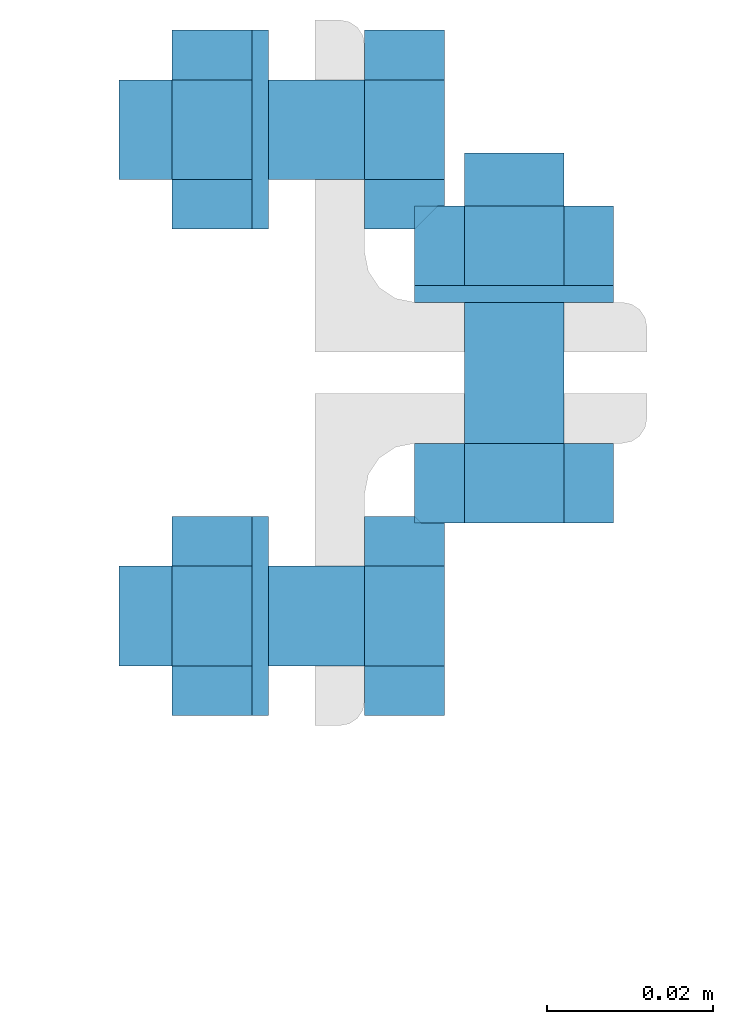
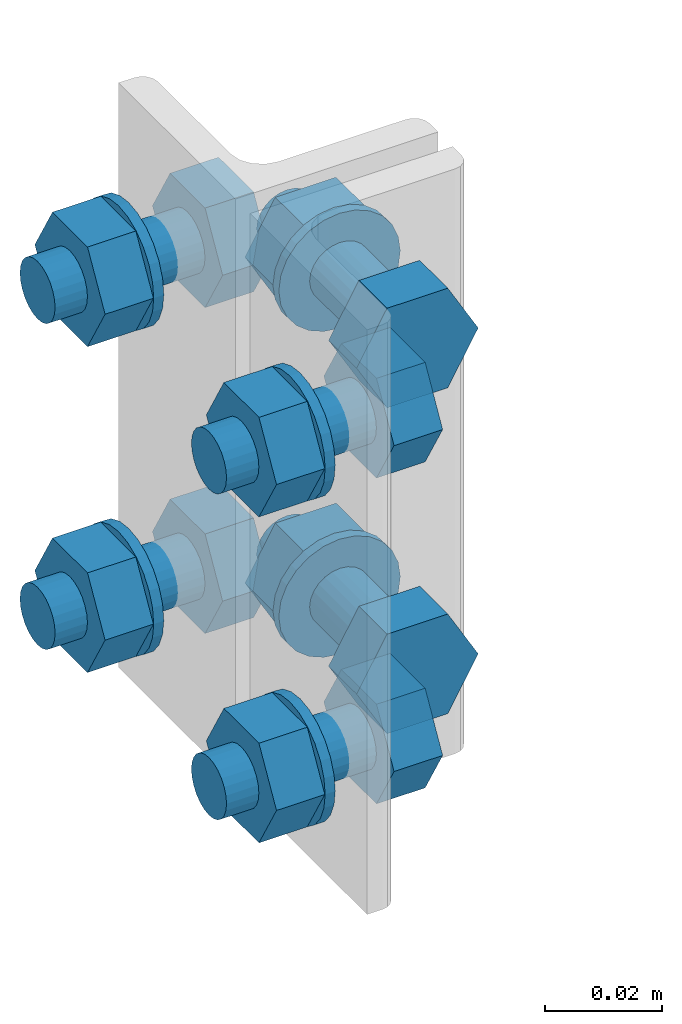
# One storey, part 19 of 20: 32 mechanical fasteners.
"""IFC4 building model written with IfcOpenShell, lengths in metres."""

from ifc_helpers import new_model, si_unit, frame, origin_with_axes, place, context, project, spatial, polyline, outline, extrude, type_object, element, save


model = new_model("IFC4")

# Units and contexts
model_context = context("Model", 3, precision=1e-05, world=origin_with_axes())
ifc_project = project(units=[si_unit("LENGTHUNIT", "METRE"), si_unit("AREAUNIT", "SQUARE_METRE"), si_unit("VOLUMEUNIT", "CUBIC_METRE"), si_unit("MASSUNIT", "GRAM", prefix="KILO"), si_unit("TIMEUNIT", "SECOND"), si_unit("PLANEANGLEUNIT", "RADIAN"), si_unit("SOLIDANGLEUNIT", "STERADIAN"), si_unit("THERMODYNAMICTEMPERATUREUNIT", "DEGREE_CELSIUS")], contexts=[model_context])

# Site, building, storey
placement_1 = place(None, origin_with_axes())
site = spatial("IfcSite", under=ifc_project, at=placement_1, Name="Italia", CompositionType="ELEMENT")
building = spatial("IfcBuilding", under=site, at=placement_1, Name="Tettoia", CompositionType="ELEMENT")
storey = spatial("IfcBuildingStorey", under=building, at=placement_1, Name="Storey 0", CompositionType="ELEMENT", Elevation=0.0)

# Mechanical fasteners
mechanical_fastener_type_1 = type_object("IfcMechanicalFastenerType", Name="Collegamento 0124_0125", PredefinedType="BOLT")
placement_2 = place(placement_1, origin_with_axes())
mechanical_fastener_1_placement = place(placement_2, origin_with_axes())
element("IfcMechanicalFastener", 1, at=mechanical_fastener_1_placement, inside=storey, type_object=mechanical_fastener_type_1, Name="Collegamento 0124_0125", NominalDiameter=0.0119999, context=model_context, shape_type="SweptSolid", body=[
    extrude(outline(polyline([(0.0, 0.0), (-0.012, 0.0), (-0.018, 0.0103922), (-0.012, 0.0207844), (0.0, 0.0207844), (0.006, 0.0103922), (0.0, 0.0)])), frame((0.1328, 21.0115, 4.25561), z_axis=(0.0, -1.0, 0.0), x_axis=(1.0, 0.0, 0.0)), (0.0, 0.0, 1.0), 0.00960159),
])
mechanical_fastener_type_2 = type_object("IfcMechanicalFastenerType", Name="Collegamento 0124_0125", PredefinedType="BOLT")
mechanical_fastener_2_placement = place(placement_2, origin_with_axes())
element("IfcMechanicalFastener", 2, at=mechanical_fastener_2_placement, inside=storey, type_object=mechanical_fastener_type_2, Name="Collegamento 0124_0125", NominalDiameter=0.012, context=model_context, shape_type="SweptSolid", body=[
    extrude(outline(polyline([(0.0, 0.0), (-0.000204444, -0.00155306), (-0.000803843, -0.00299978), (-0.00175735, -0.00424242), (-0.00299999, -0.00519609), (-0.00444709, -0.00579548), (-0.006, -0.00600004), (-0.00755291, -0.00579548), (-0.009, -0.00519609), (-0.0102426, -0.00424242), (-0.0111962, -0.00299978), (-0.0117956, -0.00155306), (-0.012, 0.0), (-0.0117956, 0.00155306), (-0.0111962, 0.00299978), (-0.0102426, 0.00424242), (-0.009, 0.00519609), (-0.00755291, 0.00579548), (-0.006, 0.00600004), (-0.00444709, 0.00579548), (-0.00299999, 0.00519609), (-0.00175735, 0.00424242), (-0.000803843, 0.00299978), (-0.000204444, 0.00155306), (0.0, 0.0)])), frame((0.1328, 21.0465, 4.266), z_axis=(0.0, -1.0, 0.0), x_axis=(1.0, 0.0, 0.0)), (0.0, 0.0, 1.0), 0.0349998),
])
mechanical_fastener_type_3 = type_object("IfcMechanicalFastenerType", Name="Collegamento 0124_0125", PredefinedType="BOLT")
mechanical_fastener_3_placement = place(placement_2, origin_with_axes())
element("IfcMechanicalFastener", 3, at=mechanical_fastener_3_placement, inside=storey, type_object=mechanical_fastener_type_3, Name="Collegamento 0124_0125", NominalDiameter=0.0119999, context=model_context, shape_type="SweptSolid", body=[
    extrude(outline(polyline([(0.0, 0.0), (-0.012, 0.0), (-0.018, 0.0103922), (-0.012, 0.0207844), (0.0, 0.0207844), (0.006, 0.0103922), (0.0, 0.0)])), frame((0.1328, 21.0401, 4.25561), z_axis=(0.0, -1.0, 0.0), x_axis=(1.0, 0.0, 0.0)), (0.0, 0.0, 1.0), 0.00959969),
])
mechanical_fastener_type_4 = type_object("IfcMechanicalFastenerType", Name="Collegamento 0124_0125", PredefinedType="BOLT")
mechanical_fastener_4_placement = place(placement_2, origin_with_axes())
element("IfcMechanicalFastener", 4, at=mechanical_fastener_4_placement, inside=storey, type_object=mechanical_fastener_type_4, Name="Collegamento 0124_0125", NominalDiameter=0.024, context=model_context, shape_type="SweptSolid", body=[
    extrude(outline(polyline([(0.0, 0.0), (-0.000408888, -0.00310564), (-0.00160769, -0.00600004), (-0.00351471, -0.00848532), (-0.006, -0.0103922), (-0.00889416, -0.011591), (-0.012, -0.0120001), (-0.0151058, -0.011591), (-0.018, -0.0103922), (-0.0204853, -0.00848532), (-0.0223923, -0.00600004), (-0.0235911, -0.00310564), (-0.024, 0.0), (-0.0235911, 0.00310564), (-0.0223923, 0.00600004), (-0.0204853, 0.00848532), (-0.018, 0.0103922), (-0.0151058, 0.011591), (-0.012, 0.0120001), (-0.00889416, 0.011591), (-0.006, 0.0103922), (-0.00351471, 0.00848532), (-0.00160769, 0.00600004), (-0.000408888, 0.00310564), (0.0, 0.0)])), frame((0.1388, 21.0305, 4.266), z_axis=(0.0, -1.0, 0.0), x_axis=(1.0, 0.0, 0.0)), (0.0, 0.0, 1.0), 0.00200081),
])
mechanical_fastener_type_5 = type_object("IfcMechanicalFastenerType", Name="Collegamento 0124_0125", PredefinedType="BOLT")
mechanical_fastener_5_placement = place(placement_2, origin_with_axes())
element("IfcMechanicalFastener", 5, at=mechanical_fastener_5_placement, inside=storey, type_object=mechanical_fastener_type_5, Name="Collegamento 0124_0125", NominalDiameter=0.0119999, context=model_context, shape_type="SweptSolid", body=[
    extrude(outline(polyline([(0.0, 0.0), (-0.012, 0.0), (-0.018, 0.0103922), (-0.012, 0.0207844), (0.0, 0.0207844), (0.006, 0.0103922), (0.0, 0.0)])), frame((0.1328, 21.0115, 4.32361), z_axis=(0.0, -1.0, 0.0), x_axis=(1.0, 0.0, 0.0)), (0.0, 0.0, 1.0), 0.00960159),
])
mechanical_fastener_type_6 = type_object("IfcMechanicalFastenerType", Name="Collegamento 0124_0125", PredefinedType="BOLT")
mechanical_fastener_6_placement = place(placement_2, origin_with_axes())
element("IfcMechanicalFastener", 6, at=mechanical_fastener_6_placement, inside=storey, type_object=mechanical_fastener_type_6, Name="Collegamento 0124_0125", NominalDiameter=0.012, context=model_context, shape_type="SweptSolid", body=[
    extrude(outline(polyline([(0.0, 0.0), (-0.000204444, -0.00155306), (-0.000803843, -0.00299978), (-0.00175735, -0.00424242), (-0.00299999, -0.00519609), (-0.00444709, -0.00579548), (-0.006, -0.00600004), (-0.00755291, -0.00579548), (-0.009, -0.00519609), (-0.0102426, -0.00424242), (-0.0111962, -0.00299978), (-0.0117956, -0.00155306), (-0.012, 0.0), (-0.0117956, 0.00155306), (-0.0111962, 0.00299978), (-0.0102426, 0.00424242), (-0.009, 0.00519609), (-0.00755291, 0.00579548), (-0.006, 0.00600004), (-0.00444709, 0.00579548), (-0.00299999, 0.00519609), (-0.00175735, 0.00424242), (-0.000803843, 0.00299978), (-0.000204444, 0.00155306), (0.0, 0.0)])), frame((0.1328, 21.0465, 4.334), z_axis=(0.0, -1.0, 0.0), x_axis=(1.0, 0.0, 0.0)), (0.0, 0.0, 1.0), 0.0349998),
])
mechanical_fastener_type_7 = type_object("IfcMechanicalFastenerType", Name="Collegamento 0124_0125", PredefinedType="BOLT")
mechanical_fastener_7_placement = place(placement_2, origin_with_axes())
element("IfcMechanicalFastener", 7, at=mechanical_fastener_7_placement, inside=storey, type_object=mechanical_fastener_type_7, Name="Collegamento 0124_0125", NominalDiameter=0.0119999, context=model_context, shape_type="SweptSolid", body=[
    extrude(outline(polyline([(0.0, 0.0), (-0.012, 0.0), (-0.018, 0.0103922), (-0.012, 0.0207844), (0.0, 0.0207844), (0.006, 0.0103922), (0.0, 0.0)])), frame((0.1328, 21.0401, 4.32361), z_axis=(0.0, -1.0, 0.0), x_axis=(1.0, 0.0, 0.0)), (0.0, 0.0, 1.0), 0.00959969),
])
mechanical_fastener_type_8 = type_object("IfcMechanicalFastenerType", Name="Collegamento 0124_0125", PredefinedType="BOLT")
mechanical_fastener_8_placement = place(placement_2, origin_with_axes())
element("IfcMechanicalFastener", 8, at=mechanical_fastener_8_placement, inside=storey, type_object=mechanical_fastener_type_8, Name="Collegamento 0124_0125", NominalDiameter=0.024, context=model_context, shape_type="SweptSolid", body=[
    extrude(outline(polyline([(0.0, 0.0), (-0.000408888, -0.00310564), (-0.00160769, -0.00600004), (-0.00351471, -0.00848532), (-0.006, -0.0103922), (-0.00889416, -0.011591), (-0.012, -0.0120001), (-0.0151058, -0.011591), (-0.018, -0.0103922), (-0.0204853, -0.00848532), (-0.0223923, -0.00600004), (-0.0235911, -0.00310564), (-0.024, 0.0), (-0.0235911, 0.00310564), (-0.0223923, 0.00600004), (-0.0204853, 0.00848532), (-0.018, 0.0103922), (-0.0151058, 0.011591), (-0.012, 0.0120001), (-0.00889416, 0.011591), (-0.006, 0.0103922), (-0.00351471, 0.00848532), (-0.00160769, 0.00600004), (-0.000408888, 0.00310564), (0.0, 0.0)])), frame((0.1388, 21.0305, 4.334), z_axis=(0.0, -1.0, 0.0), x_axis=(1.0, 0.0, 0.0)), (0.0, 0.0, 1.0), 0.00200081),
])
mechanical_fastener_type_9 = type_object("IfcMechanicalFastenerType", Name="Collegamento 0124_0125", PredefinedType="BOLT")
mechanical_fastener_9_placement = place(placement_2, origin_with_axes())
element("IfcMechanicalFastener", 9, at=mechanical_fastener_9_placement, inside=storey, type_object=mechanical_fastener_type_9, Name="Collegamento 0124_0125", NominalDiameter=0.0119999, context=model_context, shape_type="SweptSolid", body=[
    extrude(outline(polyline([(0.0, 0.0), (-0.012, 0.0), (-0.018, 0.0103922), (-0.012, 0.0207844), (0.0, 0.0207844), (0.006, 0.0103922), (0.0, 0.0)])), frame((0.1328, 21.0115, 4.25561), z_axis=(0.0, -1.0, 0.0), x_axis=(1.0, 0.0, 0.0)), (0.0, 0.0, 1.0), 0.00960159),
])
mechanical_fastener_type_10 = type_object("IfcMechanicalFastenerType", Name="Collegamento 0124_0125", PredefinedType="BOLT")
mechanical_fastener_10_placement = place(placement_2, origin_with_axes())
element("IfcMechanicalFastener", 10, at=mechanical_fastener_10_placement, inside=storey, type_object=mechanical_fastener_type_10, Name="Collegamento 0124_0125", NominalDiameter=0.012, context=model_context, shape_type="SweptSolid", body=[
    extrude(outline(polyline([(0.0, 0.0), (-0.000204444, -0.00155306), (-0.000803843, -0.00299978), (-0.00175735, -0.00424242), (-0.00299999, -0.00519609), (-0.00444709, -0.00579548), (-0.006, -0.00600004), (-0.00755291, -0.00579548), (-0.009, -0.00519609), (-0.0102426, -0.00424242), (-0.0111962, -0.00299978), (-0.0117956, -0.00155306), (-0.012, 0.0), (-0.0117956, 0.00155306), (-0.0111962, 0.00299978), (-0.0102426, 0.00424242), (-0.009, 0.00519609), (-0.00755291, 0.00579548), (-0.006, 0.00600004), (-0.00444709, 0.00579548), (-0.00299999, 0.00519609), (-0.00175735, 0.00424242), (-0.000803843, 0.00299978), (-0.000204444, 0.00155306), (0.0, 0.0)])), frame((0.1328, 21.0465, 4.266), z_axis=(0.0, -1.0, 0.0), x_axis=(1.0, 0.0, 0.0)), (0.0, 0.0, 1.0), 0.0349998),
])
mechanical_fastener_type_11 = type_object("IfcMechanicalFastenerType", Name="Collegamento 0124_0125", PredefinedType="BOLT")
mechanical_fastener_11_placement = place(placement_2, origin_with_axes())
element("IfcMechanicalFastener", 11, at=mechanical_fastener_11_placement, inside=storey, type_object=mechanical_fastener_type_11, Name="Collegamento 0124_0125", NominalDiameter=0.0119999, context=model_context, shape_type="SweptSolid", body=[
    extrude(outline(polyline([(0.0, 0.0), (-0.012, 0.0), (-0.018, 0.0103922), (-0.012, 0.0207844), (0.0, 0.0207844), (0.006, 0.0103922), (0.0, 0.0)])), frame((0.1328, 21.0401, 4.25561), z_axis=(0.0, -1.0, 0.0), x_axis=(1.0, 0.0, 0.0)), (0.0, 0.0, 1.0), 0.00959969),
])
mechanical_fastener_type_12 = type_object("IfcMechanicalFastenerType", Name="Collegamento 0124_0125", PredefinedType="BOLT")
mechanical_fastener_12_placement = place(placement_2, origin_with_axes())
element("IfcMechanicalFastener", 12, at=mechanical_fastener_12_placement, inside=storey, type_object=mechanical_fastener_type_12, Name="Collegamento 0124_0125", NominalDiameter=0.024, context=model_context, shape_type="SweptSolid", body=[
    extrude(outline(polyline([(0.0, 0.0), (-0.000408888, -0.00310564), (-0.00160769, -0.00600004), (-0.00351471, -0.00848532), (-0.006, -0.0103922), (-0.00889416, -0.011591), (-0.012, -0.0120001), (-0.0151058, -0.011591), (-0.018, -0.0103922), (-0.0204853, -0.00848532), (-0.0223923, -0.00600004), (-0.0235911, -0.00310564), (-0.024, 0.0), (-0.0235911, 0.00310564), (-0.0223923, 0.00600004), (-0.0204853, 0.00848532), (-0.018, 0.0103922), (-0.0151058, 0.011591), (-0.012, 0.0120001), (-0.00889416, 0.011591), (-0.006, 0.0103922), (-0.00351471, 0.00848532), (-0.00160769, 0.00600004), (-0.000408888, 0.00310564), (0.0, 0.0)])), frame((0.1388, 21.0305, 4.266), z_axis=(0.0, -1.0, 0.0), x_axis=(1.0, 0.0, 0.0)), (0.0, 0.0, 1.0), 0.00200081),
])
mechanical_fastener_type_13 = type_object("IfcMechanicalFastenerType", Name="Collegamento 0124_0125", PredefinedType="BOLT")
mechanical_fastener_13_placement = place(placement_2, origin_with_axes())
element("IfcMechanicalFastener", 13, at=mechanical_fastener_13_placement, inside=storey, type_object=mechanical_fastener_type_13, Name="Collegamento 0124_0125", NominalDiameter=0.0119999, context=model_context, shape_type="SweptSolid", body=[
    extrude(outline(polyline([(0.0, 0.0), (-0.012, 0.0), (-0.018, 0.0103922), (-0.012, 0.0207844), (0.0, 0.0207844), (0.006, 0.0103922), (0.0, 0.0)])), frame((0.1328, 21.0115, 4.32361), z_axis=(0.0, -1.0, 0.0), x_axis=(1.0, 0.0, 0.0)), (0.0, 0.0, 1.0), 0.00960159),
])
mechanical_fastener_type_14 = type_object("IfcMechanicalFastenerType", Name="Collegamento 0124_0125", PredefinedType="BOLT")
mechanical_fastener_14_placement = place(placement_2, origin_with_axes())
element("IfcMechanicalFastener", 14, at=mechanical_fastener_14_placement, inside=storey, type_object=mechanical_fastener_type_14, Name="Collegamento 0124_0125", NominalDiameter=0.012, context=model_context, shape_type="SweptSolid", body=[
    extrude(outline(polyline([(0.0, 0.0), (-0.000204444, -0.00155306), (-0.000803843, -0.00299978), (-0.00175735, -0.00424242), (-0.00299999, -0.00519609), (-0.00444709, -0.00579548), (-0.006, -0.00600004), (-0.00755291, -0.00579548), (-0.009, -0.00519609), (-0.0102426, -0.00424242), (-0.0111962, -0.00299978), (-0.0117956, -0.00155306), (-0.012, 0.0), (-0.0117956, 0.00155306), (-0.0111962, 0.00299978), (-0.0102426, 0.00424242), (-0.009, 0.00519609), (-0.00755291, 0.00579548), (-0.006, 0.00600004), (-0.00444709, 0.00579548), (-0.00299999, 0.00519609), (-0.00175735, 0.00424242), (-0.000803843, 0.00299978), (-0.000204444, 0.00155306), (0.0, 0.0)])), frame((0.1328, 21.0465, 4.334), z_axis=(0.0, -1.0, 0.0), x_axis=(1.0, 0.0, 0.0)), (0.0, 0.0, 1.0), 0.0349998),
])
mechanical_fastener_type_15 = type_object("IfcMechanicalFastenerType", Name="Collegamento 0124_0125", PredefinedType="BOLT")
mechanical_fastener_15_placement = place(placement_2, origin_with_axes())
element("IfcMechanicalFastener", 15, at=mechanical_fastener_15_placement, inside=storey, type_object=mechanical_fastener_type_15, Name="Collegamento 0124_0125", NominalDiameter=0.0119999, context=model_context, shape_type="SweptSolid", body=[
    extrude(outline(polyline([(0.0, 0.0), (-0.012, 0.0), (-0.018, 0.0103922), (-0.012, 0.0207844), (0.0, 0.0207844), (0.006, 0.0103922), (0.0, 0.0)])), frame((0.1328, 21.0401, 4.32361), z_axis=(0.0, -1.0, 0.0), x_axis=(1.0, 0.0, 0.0)), (0.0, 0.0, 1.0), 0.00959969),
])
mechanical_fastener_type_16 = type_object("IfcMechanicalFastenerType", Name="Collegamento 0124_0125", PredefinedType="BOLT")
mechanical_fastener_16_placement = place(placement_2, origin_with_axes())
element("IfcMechanicalFastener", 16, at=mechanical_fastener_16_placement, inside=storey, type_object=mechanical_fastener_type_16, Name="Collegamento 0124_0125", NominalDiameter=0.024, context=model_context, shape_type="SweptSolid", body=[
    extrude(outline(polyline([(0.0, 0.0), (-0.000408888, -0.00310564), (-0.00160769, -0.00600004), (-0.00351471, -0.00848532), (-0.006, -0.0103922), (-0.00889416, -0.011591), (-0.012, -0.0120001), (-0.0151058, -0.011591), (-0.018, -0.0103922), (-0.0204853, -0.00848532), (-0.0223923, -0.00600004), (-0.0235911, -0.00310564), (-0.024, 0.0), (-0.0235911, 0.00310564), (-0.0223923, 0.00600004), (-0.0204853, 0.00848532), (-0.018, 0.0103922), (-0.0151058, 0.011591), (-0.012, 0.0120001), (-0.00889416, 0.011591), (-0.006, 0.0103922), (-0.00351471, 0.00848532), (-0.00160769, 0.00600004), (-0.000408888, 0.00310564), (0.0, 0.0)])), frame((0.1388, 21.0305, 4.334), z_axis=(0.0, -1.0, 0.0), x_axis=(1.0, 0.0, 0.0)), (0.0, 0.0, 1.0), 0.00200081),
])
mechanical_fastener_type_17 = type_object("IfcMechanicalFastenerType", Name="Collegamento 0124_0125", PredefinedType="BOLT")
mechanical_fastener_17_placement = place(placement_2, origin_with_axes())
element("IfcMechanicalFastener", 17, at=mechanical_fastener_17_placement, inside=storey, type_object=mechanical_fastener_type_17, Name="Collegamento 0124_0125", NominalDiameter=0.0119991, context=model_context, shape_type="SweptSolid", body=[
    extrude(outline(polyline([(0.0, 0.0), (-0.0119991, 0.0), (-0.0179996, 0.0103922), (-0.0119991, 0.0207844), (0.0, 0.0207844), (0.00600052, 0.0103922), (0.0, 0.0)])), frame((0.1088, 21.0553, 4.25561), z_axis=(1.0, 0.0, 0.0), x_axis=(0.0, 1.0, 0.0)), (0.0, 0.0, 1.0), 0.0096),
])
mechanical_fastener_type_18 = type_object("IfcMechanicalFastenerType", Name="Collegamento 0124_0125", PredefinedType="BOLT")
mechanical_fastener_18_placement = place(placement_2, origin_with_axes())
element("IfcMechanicalFastener", 18, at=mechanical_fastener_18_placement, inside=storey, type_object=mechanical_fastener_type_18, Name="Collegamento 0124_0125", NominalDiameter=0.012, context=model_context, shape_type="SweptSolid", body=[
    extrude(outline(polyline([(0.0, 0.0), (-0.000204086, -0.00155306), (-0.000804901, -0.00299978), (-0.00175858, -0.00424242), (-0.00300026, -0.00519609), (-0.00444794, -0.00579548), (-0.00600052, -0.00600004), (-0.0075531, -0.00579548), (-0.00900078, -0.00519609), (-0.0102425, -0.00424242), (-0.0111961, -0.00299978), (-0.011797, -0.00155306), (-0.012001, 0.0), (-0.011797, 0.00155306), (-0.0111961, 0.00299978), (-0.0102425, 0.00424242), (-0.00900078, 0.00519609), (-0.0075531, 0.00579548), (-0.00600052, 0.00600004), (-0.00444794, 0.00579548), (-0.00300026, 0.00519609), (-0.00175858, 0.00424242), (-0.000804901, 0.00299978), (-0.000204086, 0.00155306), (0.0, 0.0)])), frame((0.0791999, 21.0553, 4.266), z_axis=(1.0, 0.0, 0.0), x_axis=(0.0, 1.0, 0.0)), (0.0, 0.0, 1.0), 0.0296),
])
mechanical_fastener_type_19 = type_object("IfcMechanicalFastenerType", Name="Collegamento 0124_0125", PredefinedType="BOLT")
mechanical_fastener_19_placement = place(placement_2, origin_with_axes())
element("IfcMechanicalFastener", 19, at=mechanical_fastener_19_placement, inside=storey, type_object=mechanical_fastener_type_19, Name="Collegamento 0124_0125", NominalDiameter=0.0119991, context=model_context, shape_type="SweptSolid", body=[
    extrude(outline(polyline([(0.0, 0.0), (-0.0119991, 0.0), (-0.0179996, 0.0103922), (-0.0119991, 0.0207844), (0.0, 0.0207844), (0.00600052, 0.0103922), (0.0, 0.0)])), frame((0.0855999, 21.0553, 4.25561), z_axis=(1.0, 0.0, 0.0), x_axis=(0.0, 1.0, 0.0)), (0.0, 0.0, 1.0), 0.0096),
])
mechanical_fastener_type_20 = type_object("IfcMechanicalFastenerType", Name="Collegamento 0124_0125", PredefinedType="BOLT")
mechanical_fastener_20_placement = place(placement_2, origin_with_axes())
element("IfcMechanicalFastener", 20, at=mechanical_fastener_20_placement, inside=storey, type_object=mechanical_fastener_type_20, Name="Collegamento 0124_0125", NominalDiameter=0.024, context=model_context, shape_type="SweptSolid", body=[
    extrude(outline(polyline([(0.0, 0.0), (-0.000408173, -0.00310564), (-0.00160599, -0.00600004), (-0.00351334, -0.00848532), (-0.00599861, -0.0103922), (-0.00889397, -0.011591), (-0.0119991, -0.0120001), (-0.0151043, -0.011591), (-0.0179996, -0.0103922), (-0.0204849, -0.00848532), (-0.0223923, -0.00600004), (-0.0235901, -0.00310564), (-0.0239983, 0.0), (-0.0235901, 0.00310564), (-0.0223923, 0.00600004), (-0.0204849, 0.00848532), (-0.0179996, 0.0103922), (-0.0151043, 0.011591), (-0.0119991, 0.0120001), (-0.00889397, 0.011591), (-0.00599861, 0.0103922), (-0.00351334, 0.00848532), (-0.00160599, 0.00600004), (-0.000408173, 0.00310564), (0.0, 0.0)])), frame((0.0951999, 21.0613, 4.266), z_axis=(1.0, 0.0, 0.0), x_axis=(0.0, 1.0, 0.0)), (0.0, 0.0, 1.0), 0.002),
])
mechanical_fastener_type_21 = type_object("IfcMechanicalFastenerType", Name="Collegamento 0124_0125", PredefinedType="BOLT")
mechanical_fastener_21_placement = place(placement_2, origin_with_axes())
element("IfcMechanicalFastener", 21, at=mechanical_fastener_21_placement, inside=storey, type_object=mechanical_fastener_type_21, Name="Collegamento 0124_0125", NominalDiameter=0.0119991, context=model_context, shape_type="SweptSolid", body=[
    extrude(outline(polyline([(0.0, 0.0), (-0.0119991, 0.0), (-0.0179996, 0.0103922), (-0.0119991, 0.0207844), (0.0, 0.0207844), (0.00600052, 0.0103922), (0.0, 0.0)])), frame((0.1088, 21.0553, 4.32361), z_axis=(1.0, 0.0, 0.0), x_axis=(0.0, 1.0, 0.0)), (0.0, 0.0, 1.0), 0.0096),
])
mechanical_fastener_type_22 = type_object("IfcMechanicalFastenerType", Name="Collegamento 0124_0125", PredefinedType="BOLT")
mechanical_fastener_22_placement = place(placement_2, origin_with_axes())
element("IfcMechanicalFastener", 22, at=mechanical_fastener_22_placement, inside=storey, type_object=mechanical_fastener_type_22, Name="Collegamento 0124_0125", NominalDiameter=0.012, context=model_context, shape_type="SweptSolid", body=[
    extrude(outline(polyline([(0.0, 0.0), (-0.000204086, -0.00155306), (-0.000804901, -0.00299978), (-0.00175858, -0.00424242), (-0.00300026, -0.00519609), (-0.00444794, -0.00579548), (-0.00600052, -0.00600004), (-0.0075531, -0.00579548), (-0.00900078, -0.00519609), (-0.0102425, -0.00424242), (-0.0111961, -0.00299978), (-0.011797, -0.00155306), (-0.012001, 0.0), (-0.011797, 0.00155306), (-0.0111961, 0.00299978), (-0.0102425, 0.00424242), (-0.00900078, 0.00519609), (-0.0075531, 0.00579548), (-0.00600052, 0.00600004), (-0.00444794, 0.00579548), (-0.00300026, 0.00519609), (-0.00175858, 0.00424242), (-0.000804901, 0.00299978), (-0.000204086, 0.00155306), (0.0, 0.0)])), frame((0.0791999, 21.0553, 4.334), z_axis=(1.0, 0.0, 0.0), x_axis=(0.0, 1.0, 0.0)), (0.0, 0.0, 1.0), 0.0296),
])
mechanical_fastener_type_23 = type_object("IfcMechanicalFastenerType", Name="Collegamento 0124_0125", PredefinedType="BOLT")
mechanical_fastener_23_placement = place(placement_2, origin_with_axes())
element("IfcMechanicalFastener", 23, at=mechanical_fastener_23_placement, inside=storey, type_object=mechanical_fastener_type_23, Name="Collegamento 0124_0125", NominalDiameter=0.0119991, context=model_context, shape_type="SweptSolid", body=[
    extrude(outline(polyline([(0.0, 0.0), (-0.0119991, 0.0), (-0.0179996, 0.0103922), (-0.0119991, 0.0207844), (0.0, 0.0207844), (0.00600052, 0.0103922), (0.0, 0.0)])), frame((0.0855999, 21.0553, 4.32361), z_axis=(1.0, 0.0, 0.0), x_axis=(0.0, 1.0, 0.0)), (0.0, 0.0, 1.0), 0.0096),
])
mechanical_fastener_type_24 = type_object("IfcMechanicalFastenerType", Name="Collegamento 0124_0125", PredefinedType="BOLT")
mechanical_fastener_24_placement = place(placement_2, origin_with_axes())
element("IfcMechanicalFastener", 24, at=mechanical_fastener_24_placement, inside=storey, type_object=mechanical_fastener_type_24, Name="Collegamento 0124_0125", NominalDiameter=0.024, context=model_context, shape_type="SweptSolid", body=[
    extrude(outline(polyline([(0.0, 0.0), (-0.000408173, -0.00310564), (-0.00160599, -0.00600004), (-0.00351334, -0.00848532), (-0.00599861, -0.0103922), (-0.00889397, -0.011591), (-0.0119991, -0.0120001), (-0.0151043, -0.011591), (-0.0179996, -0.0103922), (-0.0204849, -0.00848532), (-0.0223923, -0.00600004), (-0.0235901, -0.00310564), (-0.0239983, 0.0), (-0.0235901, 0.00310564), (-0.0223923, 0.00600004), (-0.0204849, 0.00848532), (-0.0179996, 0.0103922), (-0.0151043, 0.011591), (-0.0119991, 0.0120001), (-0.00889397, 0.011591), (-0.00599861, 0.0103922), (-0.00351334, 0.00848532), (-0.00160599, 0.00600004), (-0.000408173, 0.00310564), (0.0, 0.0)])), frame((0.0951999, 21.0613, 4.334), z_axis=(1.0, 0.0, 0.0), x_axis=(0.0, 1.0, 0.0)), (0.0, 0.0, 1.0), 0.002),
])
mechanical_fastener_type_25 = type_object("IfcMechanicalFastenerType", Name="Collegamento 0124_0125", PredefinedType="BOLT")
mechanical_fastener_25_placement = place(placement_2, origin_with_axes())
element("IfcMechanicalFastener", 25, at=mechanical_fastener_25_placement, inside=storey, type_object=mechanical_fastener_type_25, Name="Collegamento 0124_0125", NominalDiameter=0.0119991, context=model_context, shape_type="SweptSolid", body=[
    extrude(outline(polyline([(0.0, 0.0), (-0.0119991, 0.0), (-0.0179996, 0.0103922), (-0.0119991, 0.0207844), (0.0, 0.0207844), (0.00600052, 0.0103922), (0.0, 0.0)])), frame((0.1184, 20.9847, 4.25561), z_axis=(-1.0, 0.0, 0.0), x_axis=(0.0, -1.0, 0.0)), (0.0, 0.0, 1.0), 0.0096),
])
mechanical_fastener_type_26 = type_object("IfcMechanicalFastenerType", Name="Collegamento 0124_0125", PredefinedType="BOLT")
mechanical_fastener_26_placement = place(placement_2, origin_with_axes())
element("IfcMechanicalFastener", 26, at=mechanical_fastener_26_placement, inside=storey, type_object=mechanical_fastener_type_26, Name="Collegamento 0124_0125", NominalDiameter=0.012, context=model_context, shape_type="SweptSolid", body=[
    extrude(outline(polyline([(0.0, 0.0), (-0.000204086, -0.00155306), (-0.000804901, -0.00299978), (-0.00175858, -0.00424242), (-0.00300026, -0.00519609), (-0.00444794, -0.00579548), (-0.00600052, -0.00600004), (-0.0075531, -0.00579548), (-0.00900078, -0.00519609), (-0.0102425, -0.00424242), (-0.0111961, -0.00299978), (-0.011797, -0.00155306), (-0.012001, 0.0), (-0.011797, 0.00155306), (-0.0111961, 0.00299978), (-0.0102425, 0.00424242), (-0.00900078, 0.00519609), (-0.0075531, 0.00579548), (-0.00600052, 0.00600004), (-0.00444794, 0.00579548), (-0.00300026, 0.00519609), (-0.00175858, 0.00424242), (-0.000804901, 0.00299978), (-0.000204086, 0.00155306), (0.0, 0.0)])), frame((0.1088, 20.9847, 4.266), z_axis=(-1.0, 0.0, 0.0), x_axis=(0.0, -1.0, 0.0)), (0.0, 0.0, 1.0), 0.0296),
])
mechanical_fastener_type_27 = type_object("IfcMechanicalFastenerType", Name="Collegamento 0124_0125", PredefinedType="BOLT")
mechanical_fastener_27_placement = place(placement_2, origin_with_axes())
element("IfcMechanicalFastener", 27, at=mechanical_fastener_27_placement, inside=storey, type_object=mechanical_fastener_type_27, Name="Collegamento 0124_0125", NominalDiameter=0.0119991, context=model_context, shape_type="SweptSolid", body=[
    extrude(outline(polyline([(0.0, 0.0), (-0.0119991, 0.0), (-0.0179996, 0.0103922), (-0.0119991, 0.0207844), (0.0, 0.0207844), (0.00600052, 0.0103922), (0.0, 0.0)])), frame((0.0951999, 20.9847, 4.25561), z_axis=(-1.0, 0.0, 0.0), x_axis=(0.0, -1.0, 0.0)), (0.0, 0.0, 1.0), 0.0096),
])
mechanical_fastener_type_28 = type_object("IfcMechanicalFastenerType", Name="Collegamento 0124_0125", PredefinedType="BOLT")
mechanical_fastener_28_placement = place(placement_2, origin_with_axes())
element("IfcMechanicalFastener", 28, at=mechanical_fastener_28_placement, inside=storey, type_object=mechanical_fastener_type_28, Name="Collegamento 0124_0125", NominalDiameter=0.024, context=model_context, shape_type="SweptSolid", body=[
    extrude(outline(polyline([(0.0, 0.0), (-0.000408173, -0.00310564), (-0.00160599, -0.00600004), (-0.00351334, -0.00848532), (-0.00599861, -0.0103922), (-0.00889397, -0.011591), (-0.0119991, -0.0120001), (-0.0151043, -0.011591), (-0.0179996, -0.0103922), (-0.0204849, -0.00848532), (-0.0223923, -0.00600004), (-0.0235901, -0.00310564), (-0.0239983, 0.0), (-0.0235901, 0.00310564), (-0.0223923, 0.00600004), (-0.0204849, 0.00848532), (-0.0179996, 0.0103922), (-0.0151043, 0.011591), (-0.0119991, 0.0120001), (-0.00889397, 0.011591), (-0.00599861, 0.0103922), (-0.00351334, 0.00848532), (-0.00160599, 0.00600004), (-0.000408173, 0.00310564), (0.0, 0.0)])), frame((0.0971999, 20.9787, 4.266), z_axis=(-1.0, 0.0, 0.0), x_axis=(0.0, -1.0, 0.0)), (0.0, 0.0, 1.0), 0.002),
])
mechanical_fastener_type_29 = type_object("IfcMechanicalFastenerType", Name="Collegamento 0124_0125", PredefinedType="BOLT")
mechanical_fastener_29_placement = place(placement_2, origin_with_axes())
element("IfcMechanicalFastener", 29, at=mechanical_fastener_29_placement, inside=storey, type_object=mechanical_fastener_type_29, Name="Collegamento 0124_0125", NominalDiameter=0.0119991, context=model_context, shape_type="SweptSolid", body=[
    extrude(outline(polyline([(0.0, 0.0), (-0.0119991, 0.0), (-0.0179996, 0.0103922), (-0.0119991, 0.0207844), (0.0, 0.0207844), (0.00600052, 0.0103922), (0.0, 0.0)])), frame((0.1184, 20.9847, 4.32361), z_axis=(-1.0, 0.0, 0.0), x_axis=(0.0, -1.0, 0.0)), (0.0, 0.0, 1.0), 0.0096),
])
mechanical_fastener_type_30 = type_object("IfcMechanicalFastenerType", Name="Collegamento 0124_0125", PredefinedType="BOLT")
mechanical_fastener_30_placement = place(placement_2, origin_with_axes())
element("IfcMechanicalFastener", 30, at=mechanical_fastener_30_placement, inside=storey, type_object=mechanical_fastener_type_30, Name="Collegamento 0124_0125", NominalDiameter=0.012, context=model_context, shape_type="SweptSolid", body=[
    extrude(outline(polyline([(0.0, 0.0), (-0.000204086, -0.00155306), (-0.000804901, -0.00299978), (-0.00175858, -0.00424242), (-0.00300026, -0.00519609), (-0.00444794, -0.00579548), (-0.00600052, -0.00600004), (-0.0075531, -0.00579548), (-0.00900078, -0.00519609), (-0.0102425, -0.00424242), (-0.0111961, -0.00299978), (-0.011797, -0.00155306), (-0.012001, 0.0), (-0.011797, 0.00155306), (-0.0111961, 0.00299978), (-0.0102425, 0.00424242), (-0.00900078, 0.00519609), (-0.0075531, 0.00579548), (-0.00600052, 0.00600004), (-0.00444794, 0.00579548), (-0.00300026, 0.00519609), (-0.00175858, 0.00424242), (-0.000804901, 0.00299978), (-0.000204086, 0.00155306), (0.0, 0.0)])), frame((0.1088, 20.9847, 4.334), z_axis=(-1.0, 0.0, 0.0), x_axis=(0.0, -1.0, 0.0)), (0.0, 0.0, 1.0), 0.0296),
])
mechanical_fastener_type_31 = type_object("IfcMechanicalFastenerType", Name="Collegamento 0124_0125", PredefinedType="BOLT")
mechanical_fastener_31_placement = place(placement_2, origin_with_axes())
element("IfcMechanicalFastener", 31, at=mechanical_fastener_31_placement, inside=storey, type_object=mechanical_fastener_type_31, Name="Collegamento 0124_0125", NominalDiameter=0.0119991, context=model_context, shape_type="SweptSolid", body=[
    extrude(outline(polyline([(0.0, 0.0), (-0.0119991, 0.0), (-0.0179996, 0.0103922), (-0.0119991, 0.0207844), (0.0, 0.0207844), (0.00600052, 0.0103922), (0.0, 0.0)])), frame((0.0951999, 20.9847, 4.32361), z_axis=(-1.0, 0.0, 0.0), x_axis=(0.0, -1.0, 0.0)), (0.0, 0.0, 1.0), 0.0096),
])
mechanical_fastener_type_32 = type_object("IfcMechanicalFastenerType", Name="Collegamento 0124_0125", PredefinedType="BOLT")
mechanical_fastener_32_placement = place(placement_2, origin_with_axes())
element("IfcMechanicalFastener", 32, at=mechanical_fastener_32_placement, inside=storey, type_object=mechanical_fastener_type_32, Name="Collegamento 0124_0125", NominalDiameter=0.024, context=model_context, shape_type="SweptSolid", body=[
    extrude(outline(polyline([(0.0, 0.0), (-0.000408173, -0.00310564), (-0.00160599, -0.00600004), (-0.00351334, -0.00848532), (-0.00599861, -0.0103922), (-0.00889397, -0.011591), (-0.0119991, -0.0120001), (-0.0151043, -0.011591), (-0.0179996, -0.0103922), (-0.0204849, -0.00848532), (-0.0223923, -0.00600004), (-0.0235901, -0.00310564), (-0.0239983, 0.0), (-0.0235901, 0.00310564), (-0.0223923, 0.00600004), (-0.0204849, 0.00848532), (-0.0179996, 0.0103922), (-0.0151043, 0.011591), (-0.0119991, 0.0120001), (-0.00889397, 0.011591), (-0.00599861, 0.0103922), (-0.00351334, 0.00848532), (-0.00160599, 0.00600004), (-0.000408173, 0.00310564), (0.0, 0.0)])), frame((0.0971999, 20.9787, 4.334), z_axis=(-1.0, 0.0, 0.0), x_axis=(0.0, -1.0, 0.0)), (0.0, 0.0, 1.0), 0.002),
])

save(model, "model.ifc")
